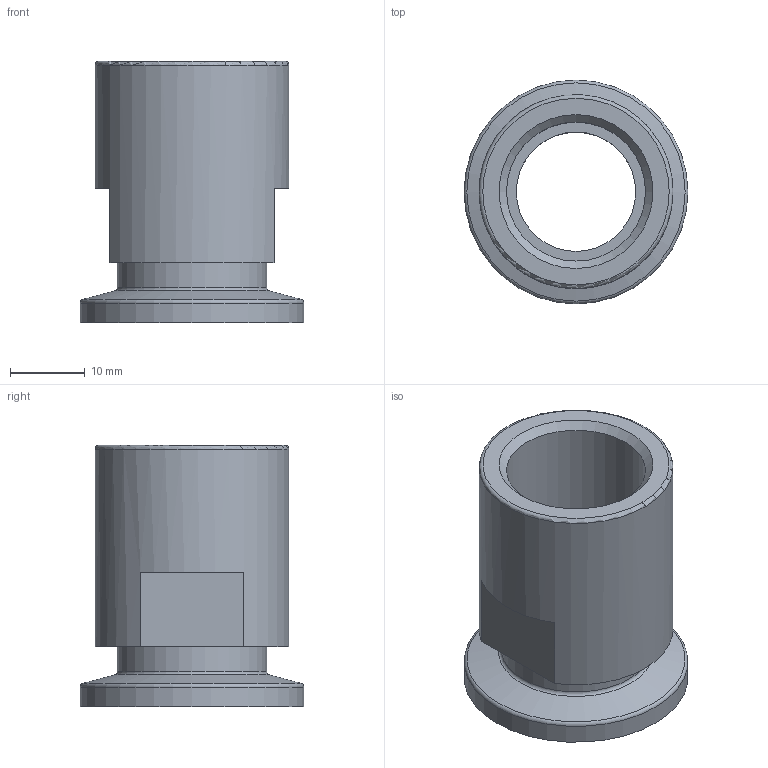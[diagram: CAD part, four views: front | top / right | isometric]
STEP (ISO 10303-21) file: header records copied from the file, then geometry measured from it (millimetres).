
FILE_DESCRIPTION( ( 'Unknown' ), '1' );
FILE_NAME( 'X:/Daten ( aktueller Bestand )/Projekte und Zeichnungen/Solid Edge/2 Bauteile KF/VA/KF-Aufschraubflansch VA/1542.stp', 'Unknown', ( 'Unknown' ), ( 'Unknown' ), 'XStep 1.0', 'Unknown', ' ' );
FILE_SCHEMA( ( 'automotive_design' ) );
Length unit declared in the file: millimetre
Products named in the file (1): 1
Bounding box: 30 x 30 x 35 mm (x, y, z)
Volume: 9672.1 mm3; surface area: 5986.3 mm2
Topology: 1 solids, 1 shells, 20 faces, 43 edges, 28 vertices
Faces by surface type: plane 9, cylinder 6, torus 3, cone 2
Full cylindrical faces by diameter (mm): 16 x1, 17.2 x1, 18.631 x1, 20 x1, 26 x1, 30 x1
Entity records: 630 total; most frequent: DIRECTION 88, CARTESIAN_POINT 71, ORIENTED_EDGE 54, AXIS2_PLACEMENT_3D 40, EDGE_LOOP 36, FACE_OUTER_BOUND 29, EDGE_CURVE 27, VERTEX_POINT 23
